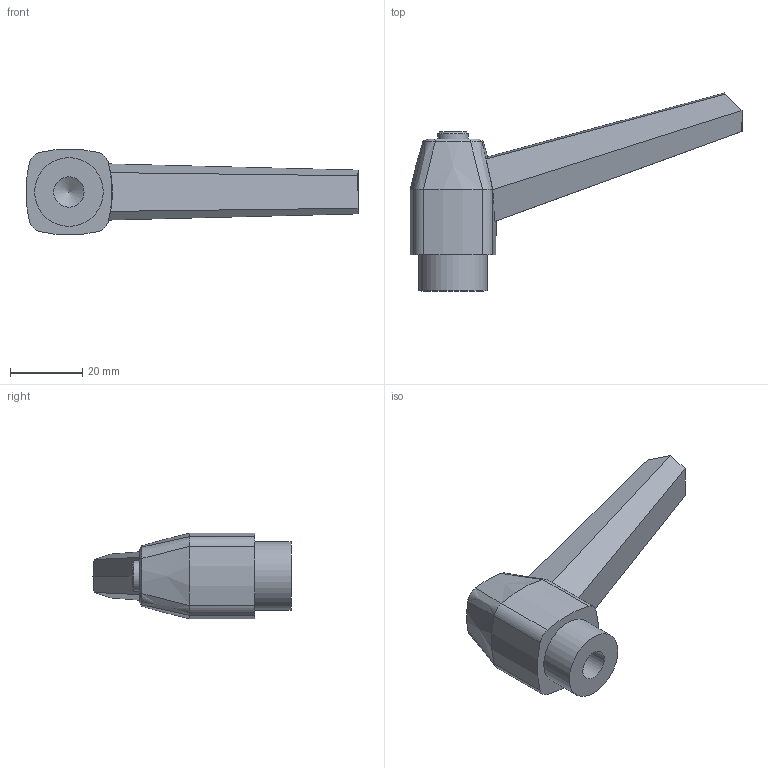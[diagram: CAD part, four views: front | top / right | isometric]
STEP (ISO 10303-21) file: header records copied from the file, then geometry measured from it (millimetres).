
FILE_DESCRIPTION (( 'STEP AP214' ), '1' );
FILE_NAME ('500-80-M10-SW.step', '2022-04-13T07:18:40', ( '' ), ( '' ), 'SwSTEP 2.0', 'SolidWorks 2019', '' );
FILE_SCHEMA (( 'AUTOMOTIVE_DESIGN' ));
Length unit declared in the file: millimetre
Products named in the file (1): 500-80-M10-SW
Bounding box: 91.88 x 54.8 x 23.76 mm (x, y, z)
Volume: 28433.8 mm3; surface area: 7906.8 mm2
Topology: 1 solids, 1 shells, 51 faces, 123 edges, 78 vertices
Faces by surface type: plane 21, cylinder 12, cone 10, bspline 8
Full cylindrical faces by diameter (mm): 8.4 x1, 8.5 x1, 10 x1, 19 x1
Entity records: 1912 total; most frequent: CARTESIAN_POINT 817, ORIENTED_EDGE 232, DIRECTION 182, EDGE_CURVE 116, VERTEX_POINT 77, AXIS2_PLACEMENT_3D 74, EDGE_LOOP 61, FACE_OUTER_BOUND 55
